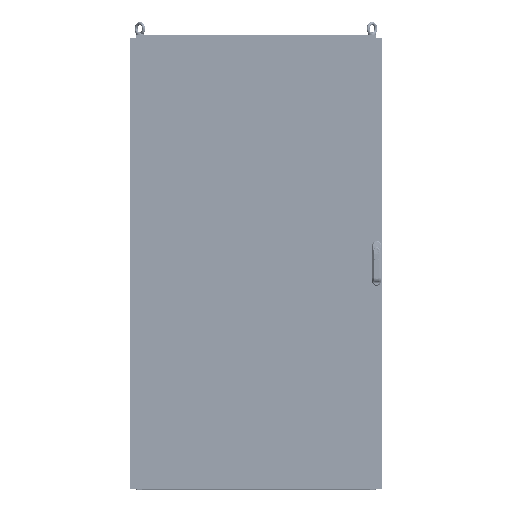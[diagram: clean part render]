
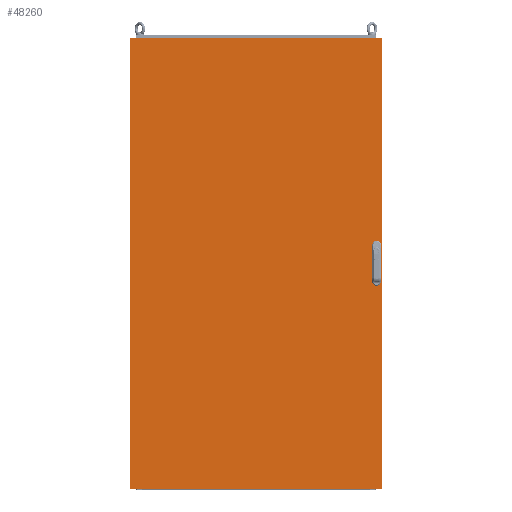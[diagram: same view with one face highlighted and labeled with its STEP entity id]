
A CAD part, front view. The second image highlights one B-rep face of the part: STEP entity #48260.
In plain terms, the highlighted planar face has unit normal (0, -1, 0).
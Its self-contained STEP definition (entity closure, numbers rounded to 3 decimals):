
#5710=LINE('',#77420,#10718);
#5711=LINE('',#77423,#10719);
#5712=LINE('',#77425,#10720);
#5713=LINE('',#77427,#10721);
#5714=LINE('',#77428,#10722);
#5715=LINE('',#77431,#10723);
#5716=LINE('',#77433,#10724);
#5717=LINE('',#77435,#10725);
#5718=LINE('',#77436,#10726);
#5719=LINE('',#77439,#10727);
#5720=LINE('',#77441,#10728);
#5721=LINE('',#77443,#10729);
#10718=VECTOR('',#63841,1000.);
#10719=VECTOR('',#63842,1000.);
#10720=VECTOR('',#63843,1000.);
#10721=VECTOR('',#63844,1000.);
#10722=VECTOR('',#63845,1000.);
#10723=VECTOR('',#63846,1000.);
#10724=VECTOR('',#63847,1000.);
#10725=VECTOR('',#63848,1000.);
#10726=VECTOR('',#63849,1000.);
#10727=VECTOR('',#63850,1000.);
#10728=VECTOR('',#63851,1000.);
#10729=VECTOR('',#63852,1000.);
#21327=ORIENTED_EDGE('',*,*,#29214,.T.);
#21328=ORIENTED_EDGE('',*,*,#29215,.T.);
#21329=ORIENTED_EDGE('',*,*,#29216,.T.);
#21330=ORIENTED_EDGE('',*,*,#29217,.T.);
#21331=ORIENTED_EDGE('',*,*,#29218,.T.);
#21332=ORIENTED_EDGE('',*,*,#29219,.T.);
#21333=ORIENTED_EDGE('',*,*,#29220,.T.);
#21334=ORIENTED_EDGE('',*,*,#29221,.T.);
#21335=ORIENTED_EDGE('',*,*,#29222,.F.);
#21336=ORIENTED_EDGE('',*,*,#29223,.F.);
#21337=ORIENTED_EDGE('',*,*,#29224,.F.);
#21338=ORIENTED_EDGE('',*,*,#29225,.F.);
#29214=EDGE_CURVE('',#34147,#34148,#5710,.T.);
#29215=EDGE_CURVE('',#34148,#34149,#5711,.T.);
#29216=EDGE_CURVE('',#34149,#34150,#5712,.T.);
#29217=EDGE_CURVE('',#34150,#34147,#5713,.T.);
#29218=EDGE_CURVE('',#34151,#34152,#5714,.T.);
#29219=EDGE_CURVE('',#34152,#34153,#5715,.T.);
#29220=EDGE_CURVE('',#34153,#34154,#5716,.T.);
#29221=EDGE_CURVE('',#34154,#34151,#5717,.T.);
#29222=EDGE_CURVE('',#34155,#34156,#5718,.T.);
#29223=EDGE_CURVE('',#34157,#34155,#5719,.T.);
#29224=EDGE_CURVE('',#34158,#34157,#5720,.T.);
#29225=EDGE_CURVE('',#34156,#34158,#5721,.T.);
#34147=VERTEX_POINT('',#77421);
#34148=VERTEX_POINT('',#77422);
#34149=VERTEX_POINT('',#77424);
#34150=VERTEX_POINT('',#77426);
#34151=VERTEX_POINT('',#77429);
#34152=VERTEX_POINT('',#77430);
#34153=VERTEX_POINT('',#77432);
#34154=VERTEX_POINT('',#77434);
#34155=VERTEX_POINT('',#77437);
#34156=VERTEX_POINT('',#77438);
#34157=VERTEX_POINT('',#77440);
#34158=VERTEX_POINT('',#77442);
#39539=EDGE_LOOP('',(#21327,#21328,#21329,#21330));
#39540=EDGE_LOOP('',(#21331,#21332,#21333,#21334));
#39541=EDGE_LOOP('',(#21335,#21336,#21337,#21338));
#43672=FACE_BOUND('',#39539,.T.);
#43673=FACE_BOUND('',#39540,.T.);
#43674=FACE_BOUND('',#39541,.T.);
#46110=PLANE('',#53333);
#48260=ADVANCED_FACE('',(#43672,#43673,#43674),#46110,.F.);
#53333=AXIS2_PLACEMENT_3D('',#77419,#63839,#63840);
#63839=DIRECTION('',(0.,1.,0.));
#63840=DIRECTION('',(-1.,0.,0.));
#63841=DIRECTION('',(-1.,0.,0.));
#63842=DIRECTION('',(0.,0.,1.));
#63843=DIRECTION('',(1.,0.,0.));
#63844=DIRECTION('',(0.,0.,-1.));
#63845=DIRECTION('',(-1.,0.,0.));
#63846=DIRECTION('',(0.,0.,1.));
#63847=DIRECTION('',(1.,0.,0.));
#63848=DIRECTION('',(0.,0.,-1.));
#63849=DIRECTION('',(0.,0.,1.));
#63850=DIRECTION('',(-1.,0.,0.));
#63851=DIRECTION('',(0.,0.,-1.));
#63852=DIRECTION('',(1.,0.,0.));
#77419=CARTESIAN_POINT('',(0.,-13.25,0.));
#77420=CARTESIAN_POINT('',(490.5,-13.25,25.));
#77421=CARTESIAN_POINT('',(490.5,-13.25,25.));
#77422=CARTESIAN_POINT('',(465.5,-13.25,25.));
#77423=CARTESIAN_POINT('',(465.5,-13.25,25.));
#77424=CARTESIAN_POINT('',(465.5,-13.25,75.));
#77425=CARTESIAN_POINT('',(465.5,-13.25,75.));
#77426=CARTESIAN_POINT('',(490.5,-13.25,75.));
#77427=CARTESIAN_POINT('',(490.5,-13.25,75.));
#77428=CARTESIAN_POINT('',(490.5,-13.25,-75.));
#77429=CARTESIAN_POINT('',(490.5,-13.25,-75.));
#77430=CARTESIAN_POINT('',(465.5,-13.25,-75.));
#77431=CARTESIAN_POINT('',(465.5,-13.25,-75.));
#77432=CARTESIAN_POINT('',(465.5,-13.25,-25.));
#77433=CARTESIAN_POINT('',(465.5,-13.25,-25.));
#77434=CARTESIAN_POINT('',(490.5,-13.25,-25.));
#77435=CARTESIAN_POINT('',(490.5,-13.25,-25.));
#77436=CARTESIAN_POINT('',(-499.5,-13.25,-895.));
#77437=CARTESIAN_POINT('',(-499.5,-13.25,-895.));
#77438=CARTESIAN_POINT('',(-499.5,-13.25,895.));
#77439=CARTESIAN_POINT('',(499.5,-13.25,-895.));
#77440=CARTESIAN_POINT('',(499.5,-13.25,-895.));
#77441=CARTESIAN_POINT('',(499.5,-13.25,895.));
#77442=CARTESIAN_POINT('',(499.5,-13.25,895.));
#77443=CARTESIAN_POINT('',(-499.5,-13.25,895.));
